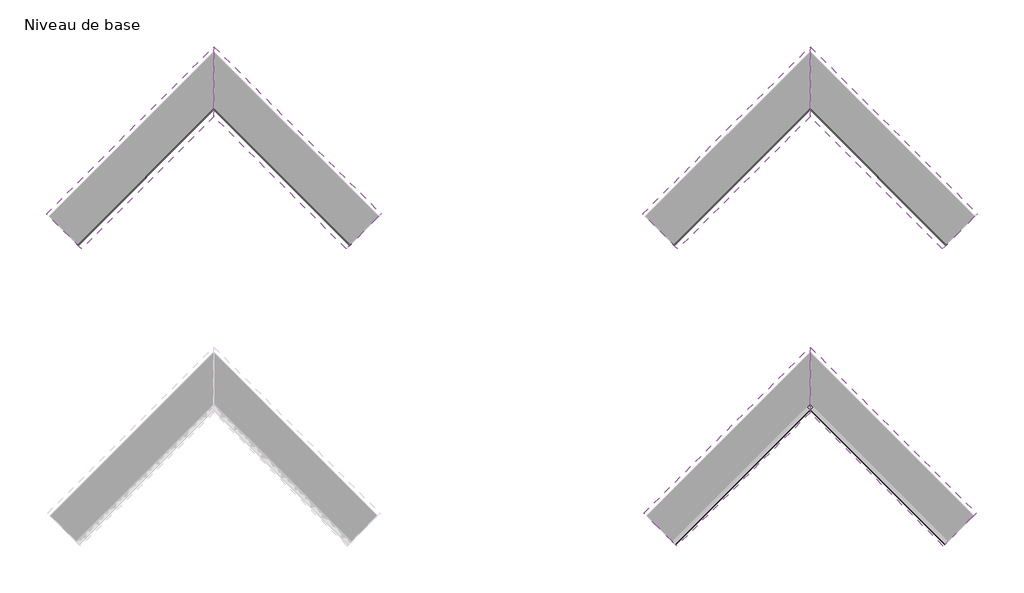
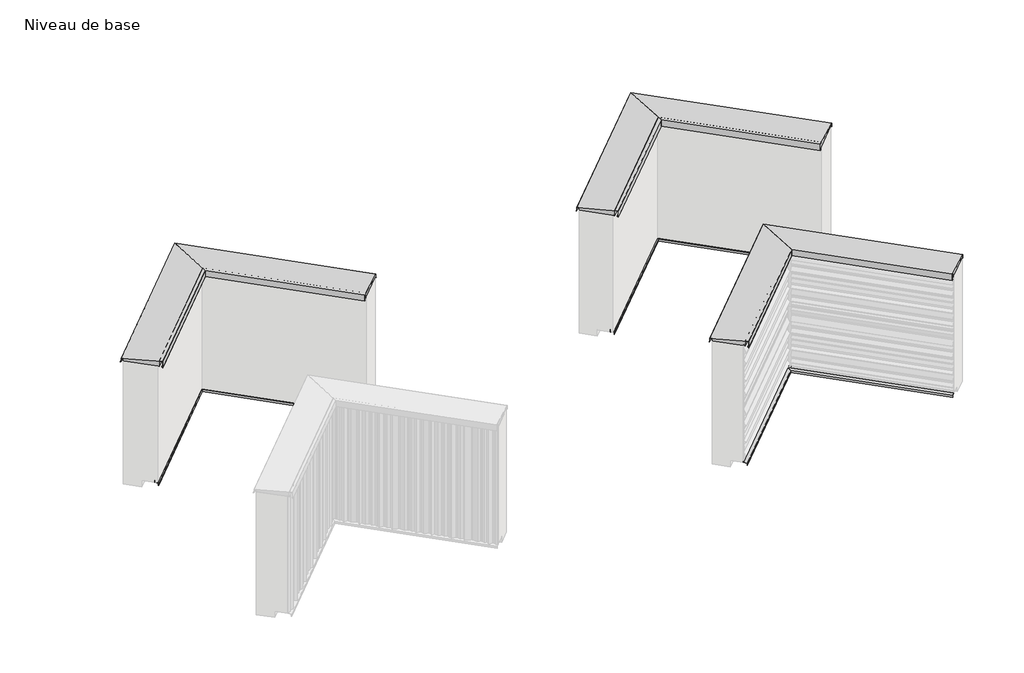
# One storey, part 11 of 13: 12 proxies.
"""IFC4 building model written with IfcOpenShell, lengths in millimetres."""

from ifc_helpers import new_model, si_unit, origin, place, context, project, spatial, faceted_brep, element, save

model = new_model("IFC4")

# Units and contexts
model_context = context("Model", 3, world=origin())
ifc_project = project(units=[si_unit("LENGTHUNIT", "METRE", prefix="MILLI")], contexts=[model_context])

# Site, building, storey
site = spatial("IfcSite", under=ifc_project)
building = spatial("IfcBuilding", under=site)
storey = spatial("IfcBuildingStorey", under=building, Name="Niveau de base", Elevation=0.0)

# Proxies
placement = place(None, origin())
element("IfcBuildingElementProxy", 1, Name="Wall Sweeps", at=placement, inside=storey, context=model_context, shape_type="Brep", body=[
    faceted_brep([(2004.0462358, 43454.0851809, 1980.4303772), (2004.0462358, 43454.0851809, 2084.3696738), (1599.8387328, 43858.2926838, 2034.2673856), (1599.8387328, 43858.2926838, 1985.4349362), (1592.5458396, 43865.585577, 1975.1212277), (1593.0458396, 43865.085577, 1974.4141209), (1600.5458396, 43857.585577, 1985.0207227), (1600.5458396, 43857.585577, 2033.3383964), (1622.385423, 43835.7459937, 2036.0405569), (1622.385423, 43835.7459937, 2000.0), (1956.1398237, 43501.991593, 2000.0), (1970.2819593, 43487.8494574, 2000.0), (1970.2819593, 43487.8494574, 2079.176115), (2003.3408978, 43454.7905189, 2083.2664199), (2003.5014657, 43454.629951, 1981.2007984), (1994.3791391, 43463.7522775, 1994.1017164), (1993.8791391, 43464.2522775, 1993.3946096), (2003.0462358, 43455.0851809, 1980.4303772), (3557.0295763, 45007.0685214, 1980.4303772), (3557.0295763, 45009.0685214, 1980.4303772), (3557.0295763, 45027.4027147, 1993.3946096), (3557.0295763, 45026.4027147, 1994.1017164), (3557.0295763, 45008.1580616, 1981.2007984), (3557.0295763, 45008.4791974, 2083.2664199), (3557.0295763, 45074.5970743, 2079.176115), (3557.0295763, 45074.5970743, 2000.0), (3557.0295763, 45102.8813456, 2000.0), (3557.0295763, 45770.390147, 2000.0), (3557.0295763, 45770.390147, 2036.0405569), (3557.0295763, 45814.0693137, 2033.3383964), (3557.0295763, 45814.0693137, 1985.0207227), (3557.0295763, 45829.0693137, 1974.4141209), (3557.0295763, 45830.0693137, 1975.1212277), (3557.0295763, 45815.4835273, 1985.4349362), (3557.0295763, 45815.4835273, 2034.2673856), (3557.0295763, 45007.0685214, 2084.3696738)], [[[0, 1, 2, 3, 4, 5, 6, 7, 8, 9, 10, 11, 12, 13, 14, 15, 16, 17]], [[18, 19, 20, 21, 22, 23, 24, 25, 26, 27, 28, 29, 30, 31, 32, 33, 34, 35]], [[1, 0, 18, 35]], [[2, 1, 35, 34]], [[3, 2, 34, 33]], [[4, 3, 33, 32]], [[5, 4, 32, 31]], [[6, 5, 31, 30]], [[7, 6, 30, 29]], [[8, 7, 29, 28]], [[9, 8, 28, 27]], [[11, 10, 9, 27, 26, 25]], [[12, 11, 25, 24]], [[13, 12, 24, 23]], [[14, 13, 23, 22]], [[15, 14, 22, 21]], [[16, 15, 21, 20]], [[17, 16, 20, 19]], [[0, 17, 19, 18]]]),
])
element("IfcBuildingElementProxy", 2, Name="Wall Sweeps", at=placement, inside=storey, context=model_context, shape_type="Brep", body=[
    faceted_brep([(1927.8555524, 43530.2758642, 130.0), (1927.1484456, 43530.982971, 130.0), (1927.1484456, 43530.982971, 100.0), (1927.1484456, 43530.982971, 99.4012185), (1963.2108915, 43494.9205252, 94.9392966), (1963.2108915, 43494.9205252, 62.75208), (1963.9179983, 43494.2134184, 62.75208), (1963.9179983, 43494.2134184, 95.5380782), (1927.8555524, 43530.2758642, 100.0), (3557.0295763, 45159.4498881, 130.0), (3557.0295763, 45159.4498881, 100.0), (3557.0295763, 45087.3249964, 95.5380782), (3557.0295763, 45087.3249964, 62.75208), (3557.0295763, 45088.73921, 62.75208), (3557.0295763, 45088.73921, 94.9392966), (3557.0295763, 45160.8641016, 99.4012185), (3557.0295763, 45160.8641016, 100.0), (3557.0295763, 45160.8641016, 130.0)], [[[0, 1, 2, 3, 4, 5, 6, 7, 8]], [[9, 10, 11, 12, 13, 14, 15, 16, 17]], [[1, 0, 9, 17]], [[3, 2, 1, 17, 16, 15]], [[4, 3, 15, 14]], [[5, 4, 14, 13]], [[6, 5, 13, 12]], [[7, 6, 12, 11]], [[8, 7, 11, 10]], [[0, 8, 10, 9]]]),
])
element("IfcBuildingElementProxy", 3, Name="Wall Sweeps", at=placement, inside=storey, context=model_context, shape_type="Brep", body=[
    faceted_brep([(3557.0295763, 45007.0685214, 1980.4303772), (3557.0295763, 45007.0685214, 2084.3696738), (3557.0295763, 45815.4835273, 2034.2673856), (3557.0295763, 45815.4835273, 1985.4349362), (3557.0295763, 45830.0693137, 1975.1212277), (3557.0295763, 45829.0693137, 1974.4141209), (3557.0295763, 45814.0693137, 1985.0207227), (3557.0295763, 45814.0693137, 2033.3383964), (3557.0295763, 45770.390147, 2036.0405569), (3557.0295763, 45770.390147, 2000.0), (3557.0295763, 45102.8813456, 2000.0), (3557.0295763, 45074.5970743, 2000.0), (3557.0295763, 45074.5970743, 2079.176115), (3557.0295763, 45008.4791974, 2083.2664199), (3557.0295763, 45008.1580616, 1981.2007984), (3557.0295763, 45026.4027147, 1994.1017164), (3557.0295763, 45027.4027147, 1993.3946096), (3557.0295763, 45009.0685214, 1980.4303772), (5110.0129168, 43454.0851809, 1980.4303772), (5111.0129168, 43455.0851809, 1980.4303772), (5120.1800135, 43464.2522775, 1993.3946096), (5119.6800135, 43463.7522775, 1994.1017164), (5110.5576869, 43454.629951, 1981.2007984), (5110.7182548, 43454.7905189, 2083.2664199), (5143.7771933, 43487.8494574, 2079.176115), (5143.7771933, 43487.8494574, 2000.0), (5157.9193289, 43501.991593, 2000.0), (5491.6737296, 43835.7459937, 2000.0), (5491.6737296, 43835.7459937, 2036.0405569), (5513.513313, 43857.585577, 2033.3383964), (5513.513313, 43857.585577, 1985.0207227), (5521.013313, 43865.085577, 1974.4141209), (5521.513313, 43865.585577, 1975.1212277), (5514.2204197, 43858.2926838, 1985.4349362), (5514.2204197, 43858.2926838, 2034.2673856), (5110.0129168, 43454.0851809, 2084.3696738)], [[[0, 1, 2, 3, 4, 5, 6, 7, 8, 9, 10, 11, 12, 13, 14, 15, 16, 17]], [[18, 19, 20, 21, 22, 23, 24, 25, 26, 27, 28, 29, 30, 31, 32, 33, 34, 35]], [[1, 0, 18, 35]], [[2, 1, 35, 34]], [[3, 2, 34, 33]], [[4, 3, 33, 32]], [[5, 4, 32, 31]], [[6, 5, 31, 30]], [[7, 6, 30, 29]], [[8, 7, 29, 28]], [[9, 8, 28, 27]], [[11, 10, 9, 27, 26, 25]], [[12, 11, 25, 24]], [[13, 12, 24, 23]], [[14, 13, 23, 22]], [[15, 14, 22, 21]], [[16, 15, 21, 20]], [[17, 16, 20, 19]], [[0, 17, 19, 18]]]),
])
element("IfcBuildingElementProxy", 4, Name="Wall Sweeps", at=placement, inside=storey, context=model_context, shape_type="Brep", body=[
    faceted_brep([(3557.0295763, 45159.4498881, 130.0), (3557.0295763, 45160.8641016, 130.0), (3557.0295763, 45160.8641016, 100.0), (3557.0295763, 45160.8641016, 99.4012185), (3557.0295763, 45088.73921, 94.9392966), (3557.0295763, 45088.73921, 62.75208), (3557.0295763, 45087.3249964, 62.75208), (3557.0295763, 45087.3249964, 95.5380782), (3557.0295763, 45159.4498881, 100.0), (5186.2036001, 43530.2758642, 130.0), (5186.2036001, 43530.2758642, 100.0), (5150.1411543, 43494.2134184, 95.5380782), (5150.1411543, 43494.2134184, 62.75208), (5150.8482611, 43494.9205252, 62.75208), (5150.8482611, 43494.9205252, 94.9392966), (5186.9107069, 43530.982971, 99.4012185), (5186.9107069, 43530.982971, 100.0), (5186.9107069, 43530.982971, 130.0)], [[[0, 1, 2, 3, 4, 5, 6, 7, 8]], [[9, 10, 11, 12, 13, 14, 15, 16, 17]], [[1, 0, 9, 17]], [[3, 2, 1, 17, 16, 15]], [[4, 3, 15, 14]], [[5, 4, 14, 13]], [[6, 5, 13, 12]], [[7, 6, 12, 11]], [[8, 7, 11, 10]], [[0, 8, 10, 9]]]),
])
element("IfcBuildingElementProxy", 5, Name="Wall Sweeps", at=placement, inside=storey, context=model_context, shape_type="Brep", body=[
    faceted_brep([(9004.0462358, 43454.0851809, 1980.4303772), (9004.0462358, 43454.0851809, 2084.3696738), (8599.8387328, 43858.2926838, 2034.2673856), (8599.8387328, 43858.2926838, 1985.4349362), (8592.5458396, 43865.585577, 1975.1212277), (8593.0458396, 43865.085577, 1974.4141209), (8600.5458396, 43857.585577, 1985.0207227), (8600.5458396, 43857.585577, 2033.3383964), (8622.385423, 43835.7459937, 2036.0405569), (8622.385423, 43835.7459937, 2000.0), (8956.1398237, 43501.991593, 2000.0), (8970.2819593, 43487.8494574, 2000.0), (8970.2819593, 43487.8494574, 2079.176115), (9003.3408978, 43454.7905189, 2083.2664199), (9003.5014657, 43454.629951, 1981.2007984), (8994.3791391, 43463.7522775, 1994.1017164), (8993.8791391, 43464.2522775, 1993.3946096), (9003.0462358, 43455.0851809, 1980.4303772), (10557.0295763, 45007.0685214, 1980.4303772), (10557.0295763, 45009.0685214, 1980.4303772), (10557.0295763, 45027.4027147, 1993.3946096), (10557.0295763, 45026.4027147, 1994.1017164), (10557.0295763, 45008.1580616, 1981.2007984), (10557.0295763, 45008.4791974, 2083.2664199), (10557.0295763, 45074.5970743, 2079.176115), (10557.0295763, 45074.5970743, 2000.0), (10557.0295763, 45102.8813456, 2000.0), (10557.0295763, 45770.390147, 2000.0), (10557.0295763, 45770.390147, 2036.0405569), (10557.0295763, 45814.0693137, 2033.3383964), (10557.0295763, 45814.0693137, 1985.0207227), (10557.0295763, 45829.0693137, 1974.4141209), (10557.0295763, 45830.0693137, 1975.1212277), (10557.0295763, 45815.4835273, 1985.4349362), (10557.0295763, 45815.4835273, 2034.2673856), (10557.0295763, 45007.0685214, 2084.3696738)], [[[0, 1, 2, 3, 4, 5, 6, 7, 8, 9, 10, 11, 12, 13, 14, 15, 16, 17]], [[18, 19, 20, 21, 22, 23, 24, 25, 26, 27, 28, 29, 30, 31, 32, 33, 34, 35]], [[1, 0, 18, 35]], [[2, 1, 35, 34]], [[3, 2, 34, 33]], [[4, 3, 33, 32]], [[5, 4, 32, 31]], [[6, 5, 31, 30]], [[7, 6, 30, 29]], [[8, 7, 29, 28]], [[9, 8, 28, 27]], [[11, 10, 9, 27, 26, 25]], [[12, 11, 25, 24]], [[13, 12, 24, 23]], [[14, 13, 23, 22]], [[15, 14, 22, 21]], [[16, 15, 21, 20]], [[17, 16, 20, 19]], [[0, 17, 19, 18]]]),
])
element("IfcBuildingElementProxy", 6, Name="Wall Sweeps", at=placement, inside=storey, context=model_context, shape_type="Brep", body=[
    faceted_brep([(8927.8555524, 43530.2758642, 130.0), (8927.1484456, 43530.982971, 130.0), (8927.1484456, 43530.982971, 100.0), (8927.1484456, 43530.982971, 99.4012185), (8963.2108915, 43494.9205252, 94.9392966), (8963.2108915, 43494.9205252, 62.75208), (8963.9179983, 43494.2134184, 62.75208), (8963.9179983, 43494.2134184, 95.5380782), (8927.8555524, 43530.2758642, 100.0), (10557.0295763, 45159.4498881, 130.0), (10557.0295763, 45159.4498881, 100.0), (10557.0295763, 45087.3249964, 95.5380782), (10557.0295763, 45087.3249964, 62.75208), (10557.0295763, 45088.73921, 62.75208), (10557.0295763, 45088.73921, 94.9392966), (10557.0295763, 45160.8641016, 99.4012185), (10557.0295763, 45160.8641016, 100.0), (10557.0295763, 45160.8641016, 130.0)], [[[0, 1, 2, 3, 4, 5, 6, 7, 8]], [[9, 10, 11, 12, 13, 14, 15, 16, 17]], [[1, 0, 9, 17]], [[3, 2, 1, 17, 16, 15]], [[4, 3, 15, 14]], [[5, 4, 14, 13]], [[6, 5, 13, 12]], [[7, 6, 12, 11]], [[8, 7, 11, 10]], [[0, 8, 10, 9]]]),
])
element("IfcBuildingElementProxy", 7, Name="Wall Sweeps", at=placement, inside=storey, context=model_context, shape_type="Brep", body=[
    faceted_brep([(10557.0295763, 45007.0685214, 1980.4303772), (10557.0295763, 45007.0685214, 2084.3696738), (10557.0295763, 45815.4835273, 2034.2673856), (10557.0295763, 45815.4835273, 1985.4349362), (10557.0295763, 45830.0693137, 1975.1212277), (10557.0295763, 45829.0693137, 1974.4141209), (10557.0295763, 45814.0693137, 1985.0207227), (10557.0295763, 45814.0693137, 2033.3383964), (10557.0295763, 45770.390147, 2036.0405569), (10557.0295763, 45770.390147, 2000.0), (10557.0295763, 45102.8813456, 2000.0), (10557.0295763, 45074.5970743, 2000.0), (10557.0295763, 45074.5970743, 2079.176115), (10557.0295763, 45008.4791974, 2083.2664199), (10557.0295763, 45008.1580616, 1981.2007984), (10557.0295763, 45026.4027147, 1994.1017164), (10557.0295763, 45027.4027147, 1993.3946096), (10557.0295763, 45009.0685214, 1980.4303772), (12110.0129168, 43454.0851809, 1980.4303772), (12111.0129168, 43455.0851809, 1980.4303772), (12120.1800135, 43464.2522775, 1993.3946096), (12119.6800135, 43463.7522775, 1994.1017164), (12110.5576869, 43454.629951, 1981.2007984), (12110.7182548, 43454.7905189, 2083.2664199), (12143.7771933, 43487.8494574, 2079.176115), (12143.7771933, 43487.8494574, 2000.0), (12157.9193289, 43501.991593, 2000.0), (12491.6737296, 43835.7459937, 2000.0), (12491.6737296, 43835.7459937, 2036.0405569), (12513.513313, 43857.585577, 2033.3383964), (12513.513313, 43857.585577, 1985.0207227), (12521.013313, 43865.085577, 1974.4141209), (12521.513313, 43865.585577, 1975.1212277), (12514.2204197, 43858.2926838, 1985.4349362), (12514.2204197, 43858.2926838, 2034.2673856), (12110.0129168, 43454.0851809, 2084.3696738)], [[[0, 1, 2, 3, 4, 5, 6, 7, 8, 9, 10, 11, 12, 13, 14, 15, 16, 17]], [[18, 19, 20, 21, 22, 23, 24, 25, 26, 27, 28, 29, 30, 31, 32, 33, 34, 35]], [[1, 0, 18, 35]], [[2, 1, 35, 34]], [[3, 2, 34, 33]], [[4, 3, 33, 32]], [[5, 4, 32, 31]], [[6, 5, 31, 30]], [[7, 6, 30, 29]], [[8, 7, 29, 28]], [[9, 8, 28, 27]], [[11, 10, 9, 27, 26, 25]], [[12, 11, 25, 24]], [[13, 12, 24, 23]], [[14, 13, 23, 22]], [[15, 14, 22, 21]], [[16, 15, 21, 20]], [[17, 16, 20, 19]], [[0, 17, 19, 18]]]),
])
element("IfcBuildingElementProxy", 8, Name="Wall Sweeps", at=placement, inside=storey, context=model_context, shape_type="Brep", body=[
    faceted_brep([(10557.0295763, 45159.4498881, 130.0), (10557.0295763, 45160.8641016, 130.0), (10557.0295763, 45160.8641016, 100.0), (10557.0295763, 45160.8641016, 99.4012185), (10557.0295763, 45088.73921, 94.9392966), (10557.0295763, 45088.73921, 62.75208), (10557.0295763, 45087.3249964, 62.75208), (10557.0295763, 45087.3249964, 95.5380782), (10557.0295763, 45159.4498881, 100.0), (12186.2036001, 43530.2758642, 130.0), (12186.2036001, 43530.2758642, 100.0), (12150.1411543, 43494.2134184, 95.5380782), (12150.1411543, 43494.2134184, 62.75208), (12150.8482611, 43494.9205252, 62.75208), (12150.8482611, 43494.9205252, 94.9392966), (12186.9107069, 43530.982971, 99.4012185), (12186.9107069, 43530.982971, 100.0), (12186.9107069, 43530.982971, 130.0)], [[[0, 1, 2, 3, 4, 5, 6, 7, 8]], [[9, 10, 11, 12, 13, 14, 15, 16, 17]], [[1, 0, 9, 17]], [[3, 2, 1, 17, 16, 15]], [[4, 3, 15, 14]], [[5, 4, 14, 13]], [[6, 5, 13, 12]], [[7, 6, 12, 11]], [[8, 7, 11, 10]], [[0, 8, 10, 9]]]),
])
element("IfcBuildingElementProxy", 9, Name="Wall Sweeps", at=placement, inside=storey, context=model_context, shape_type="Brep", body=[
    faceted_brep([(8941.997688, 40016.1337286, 130.0), (8941.2905813, 40016.8408354, 130.0), (8941.2905813, 40016.8408354, 100.0), (8941.2905813, 40016.8408354, 99.4012185), (8977.3530271, 39980.7783895, 94.9392966), (8977.3530271, 39980.7783895, 62.75208), (8978.0601339, 39980.0712828, 62.75208), (8978.0601339, 39980.0712828, 95.5380782), (8941.997688, 40016.1337286, 100.0), (10557.0295763, 41631.1656168, 130.0), (10557.0295763, 41631.1656168, 100.0), (10557.0295763, 41559.0407252, 95.5380782), (10557.0295763, 41559.0407252, 62.75208), (10557.0295763, 41560.4549387, 62.75208), (10557.0295763, 41560.4549387, 94.9392966), (10557.0295763, 41632.5798304, 99.4012185), (10557.0295763, 41632.5798304, 100.0), (10557.0295763, 41632.5798304, 130.0)], [[[0, 1, 2, 3, 4, 5, 6, 7, 8]], [[9, 10, 11, 12, 13, 14, 15, 16, 17]], [[1, 0, 9, 17]], [[3, 2, 1, 17, 16, 15]], [[4, 3, 15, 14]], [[5, 4, 14, 13]], [[6, 5, 13, 12]], [[7, 6, 12, 11]], [[8, 7, 11, 10]], [[0, 8, 10, 9]]]),
])
element("IfcBuildingElementProxy", 10, Name="Wall Sweeps", at=placement, inside=storey, context=model_context, shape_type="Brep", body=[
    faceted_brep([(8992.0254205, 39966.1059962, 1979.18035), (8992.0254205, 39966.1059962, 2079.18035), (8613.9808684, 40344.1505482, 2034.4180235), (8613.9808684, 40344.1505482, 1984.5597829), (8606.4808684, 40351.6505482, 1973.9531812), (8606.9808684, 40351.1505482, 1973.2460744), (8614.6879752, 40343.4434414, 1984.1455693), (8614.6879752, 40343.4434414, 2033.5391604), (8636.5275586, 40321.6038581, 2036.2413208), (8636.5275586, 40321.6038581, 2000.0), (8941.997688, 40016.1337286, 2000.0), (8958.261144, 39999.8702726, 2000.0), (8958.261144, 39999.8702726, 2074.0364235), (8991.3200028, 39966.8114138, 2078.1267185), (8991.4775565, 39966.6538601, 1979.9551466), (8984.0254205, 39974.1059962, 1990.4940584), (8983.5254205, 39974.6059962, 1989.7869517), (8991.0254205, 39967.1059962, 1979.18035), (10557.0295763, 41531.110152, 1979.18035), (10557.0295763, 41533.110152, 1979.18035), (10557.0295763, 41548.110152, 1989.7869517), (10557.0295763, 41547.110152, 1990.4940584), (10557.0295763, 41532.2058799, 1979.9551466), (10557.0295763, 41532.5209873, 2078.1267185), (10557.0295763, 41598.6387049, 2074.0364235), (10557.0295763, 41598.6387049, 2000.0), (10557.0295763, 41631.1656168, 2000.0), (10557.0295763, 42242.1058758, 2000.0), (10557.0295763, 42242.1058758, 2036.2413208), (10557.0295763, 42285.7850425, 2033.5391604), (10557.0295763, 42285.7850425, 1984.1455693), (10557.0295763, 42301.199256, 1973.2460744), (10557.0295763, 42302.199256, 1973.9531812), (10557.0295763, 42287.199256, 1984.5597829), (10557.0295763, 42287.199256, 2034.4180235), (10557.0295763, 41531.110152, 2079.18035)], [[[0, 1, 2, 3, 4, 5, 6, 7, 8, 9, 10, 11, 12, 13, 14, 15, 16, 17]], [[18, 19, 20, 21, 22, 23, 24, 25, 26, 27, 28, 29, 30, 31, 32, 33, 34, 35]], [[1, 0, 18, 35]], [[2, 1, 35, 34]], [[3, 2, 34, 33]], [[4, 3, 33, 32]], [[5, 4, 32, 31]], [[6, 5, 31, 30]], [[7, 6, 30, 29]], [[8, 7, 29, 28]], [[9, 8, 28, 27]], [[11, 10, 9, 27, 26, 25]], [[12, 11, 25, 24]], [[13, 12, 24, 23]], [[14, 13, 23, 22]], [[15, 14, 22, 21]], [[16, 15, 21, 20]], [[17, 16, 20, 19]], [[0, 17, 19, 18]]]),
])
element("IfcBuildingElementProxy", 11, Name="Wall Sweeps", at=placement, inside=storey, context=model_context, shape_type="Brep", body=[
    faceted_brep([(10557.0295763, 41631.1656168, 130.0), (10557.0295763, 41632.5798304, 130.0), (10557.0295763, 41632.5798304, 100.0), (10557.0295763, 41632.5798304, 99.4012185), (10557.0295763, 41560.4549387, 94.9392966), (10557.0295763, 41560.4549387, 62.75208), (10557.0295763, 41559.0407252, 62.75208), (10557.0295763, 41559.0407252, 95.5380782), (10557.0295763, 41631.1656168, 100.0), (12172.0614645, 40016.1337286, 130.0), (12172.0614645, 40016.1337286, 100.0), (12135.9990187, 39980.0712828, 95.5380782), (12135.9990187, 39980.0712828, 62.75208), (12136.7061255, 39980.7783895, 62.75208), (12136.7061255, 39980.7783895, 94.9392966), (12172.7685713, 40016.8408354, 99.4012185), (12172.7685713, 40016.8408354, 100.0), (12172.7685713, 40016.8408354, 130.0)], [[[0, 1, 2, 3, 4, 5, 6, 7, 8]], [[9, 10, 11, 12, 13, 14, 15, 16, 17]], [[1, 0, 9, 17]], [[3, 2, 1, 17, 16, 15]], [[4, 3, 15, 14]], [[5, 4, 14, 13]], [[6, 5, 13, 12]], [[7, 6, 12, 11]], [[8, 7, 11, 10]], [[0, 8, 10, 9]]]),
])
element("IfcBuildingElementProxy", 12, Name="Wall Sweeps", at=placement, inside=storey, context=model_context, shape_type="Brep", body=[
    faceted_brep([(10557.0295763, 41531.110152, 1979.18035), (10557.0295763, 41531.110152, 2079.18035), (10557.0295763, 42287.199256, 2034.4180235), (10557.0295763, 42287.199256, 1984.5597829), (10557.0295763, 42302.199256, 1973.9531812), (10557.0295763, 42301.199256, 1973.2460744), (10557.0295763, 42285.7850425, 1984.1455693), (10557.0295763, 42285.7850425, 2033.5391604), (10557.0295763, 42242.1058758, 2036.2413208), (10557.0295763, 42242.1058758, 2000.0), (10557.0295763, 41631.1656168, 2000.0), (10557.0295763, 41598.6387049, 2000.0), (10557.0295763, 41598.6387049, 2074.0364235), (10557.0295763, 41532.5209873, 2078.1267185), (10557.0295763, 41532.2058799, 1979.9551466), (10557.0295763, 41547.110152, 1990.4940584), (10557.0295763, 41548.110152, 1989.7869517), (10557.0295763, 41533.110152, 1979.18035), (12122.0337321, 39966.1059962, 1979.18035), (12123.0337321, 39967.1059962, 1979.18035), (12130.5337321, 39974.6059962, 1989.7869517), (12130.0337321, 39974.1059962, 1990.4940584), (12122.581596, 39966.6538601, 1979.9551466), (12122.7391497, 39966.8114138, 2078.1267185), (12155.7980085, 39999.8702726, 2074.0364235), (12155.7980085, 39999.8702726, 2000.0), (12172.0614645, 40016.1337286, 2000.0), (12477.531594, 40321.6038581, 2000.0), (12477.531594, 40321.6038581, 2036.2413208), (12499.3711773, 40343.4434414, 2033.5391604), (12499.3711773, 40343.4434414, 1984.1455693), (12507.0782841, 40351.1505482, 1973.2460744), (12507.5782841, 40351.6505482, 1973.9531812), (12500.0782841, 40344.1505482, 1984.5597829), (12500.0782841, 40344.1505482, 2034.4180235), (12122.0337321, 39966.1059962, 2079.18035)], [[[0, 1, 2, 3, 4, 5, 6, 7, 8, 9, 10, 11, 12, 13, 14, 15, 16, 17]], [[18, 19, 20, 21, 22, 23, 24, 25, 26, 27, 28, 29, 30, 31, 32, 33, 34, 35]], [[1, 0, 18, 35]], [[2, 1, 35, 34]], [[3, 2, 34, 33]], [[4, 3, 33, 32]], [[5, 4, 32, 31]], [[6, 5, 31, 30]], [[7, 6, 30, 29]], [[8, 7, 29, 28]], [[9, 8, 28, 27]], [[11, 10, 9, 27, 26, 25]], [[12, 11, 25, 24]], [[13, 12, 24, 23]], [[14, 13, 23, 22]], [[15, 14, 22, 21]], [[16, 15, 21, 20]], [[17, 16, 20, 19]], [[0, 17, 19, 18]]]),
])

save(model, "model.ifc")
